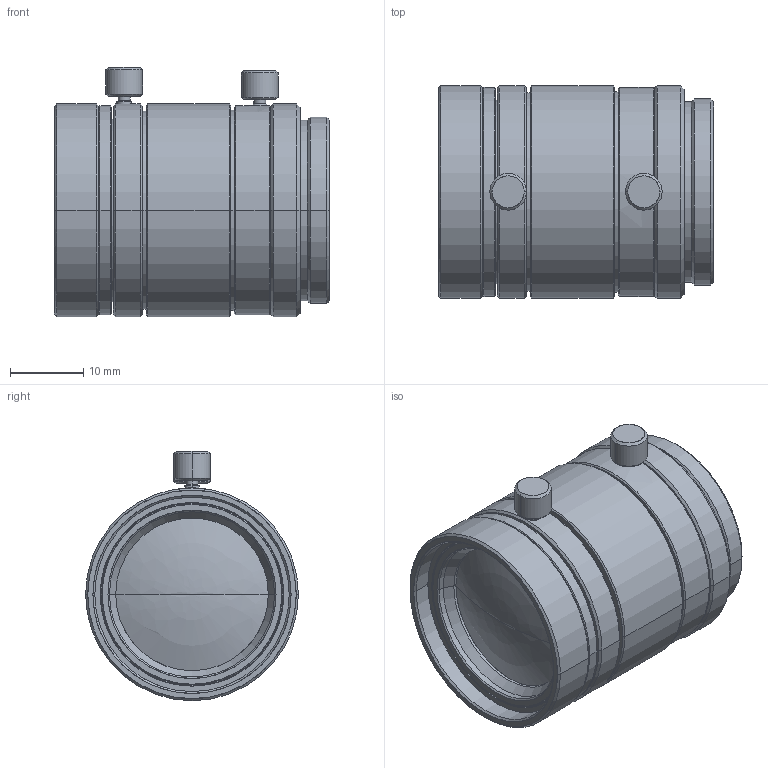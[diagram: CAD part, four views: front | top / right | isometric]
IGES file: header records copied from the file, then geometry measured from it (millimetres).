
Start section: SolidWorks IGES file using analytic representation for surfaces
Global section: file name: C:\Users\tsuji_vst\Documents\【図面】\_3D\00 VST\VS-VM\VS-3518VM.IGS; native system: SolidWorks 2016; preprocessor: SolidWorks 2016; author: tsuji_vst; date: 160330.090119; units: millimetre
Bounding box: 37.48 x 29 x 34 mm (x, y, z)
Surface area: 6437.7 mm2 (no closed solid volume)
Topology: 0 solids, 0 shells, 137 faces, 2188 edges, 2186 vertices
Faces by surface type: revolution 116, bspline 21
